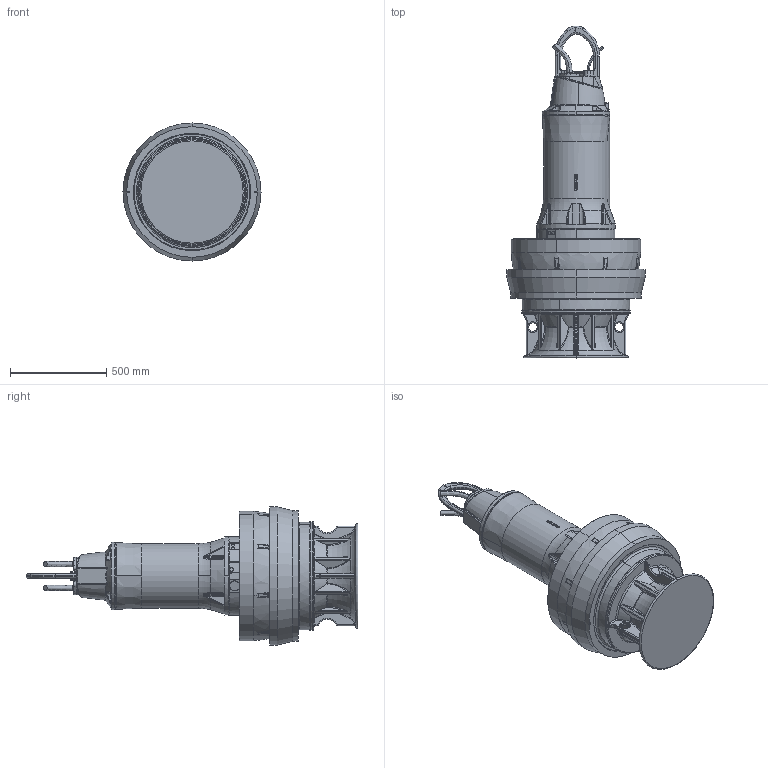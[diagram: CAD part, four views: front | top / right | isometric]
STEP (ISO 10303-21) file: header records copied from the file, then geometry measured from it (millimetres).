
FILE_DESCRIPTION (( 'STEP AP214' ), '1' );
FILE_NAME ('PE4_AFLX0700_STD_A_NG2.STEP', '2017-04-11T05:06:33', ( '' ), ( '' ), 'SwSTEP 2.0', 'SolidWorks 2017', '' );
FILE_SCHEMA (( 'AUTOMOTIVE_DESIGN' ));
Length unit declared in the file: millimetre
Products named in the file (1): PE4_AFLX0700_STD_A_NG2
Bounding box: 719 x 1728.7 x 719 mm (x, y, z)
Volume: 226219290.4 mm3; surface area: 4042932.8 mm2
Topology: 3 solids, 3 shells, 1426 faces, 3510 edges, 2083 vertices
Faces by surface type: bspline 585, cylinder 308, plane 259, torus 158, cone 100, sphere 16
Entity records: 150873 total; most frequent: CARTESIAN_POINT 106328, ORIENTED_EDGE 6936, DIRECTION 4837, EDGE_CURVE 3468, VERTEX_POINT 2083, AXIS2_PLACEMENT_3D 2065, EDGE_LOOP 1489, B_SPLINE_CURVE_WITH_KNOTS 1439
